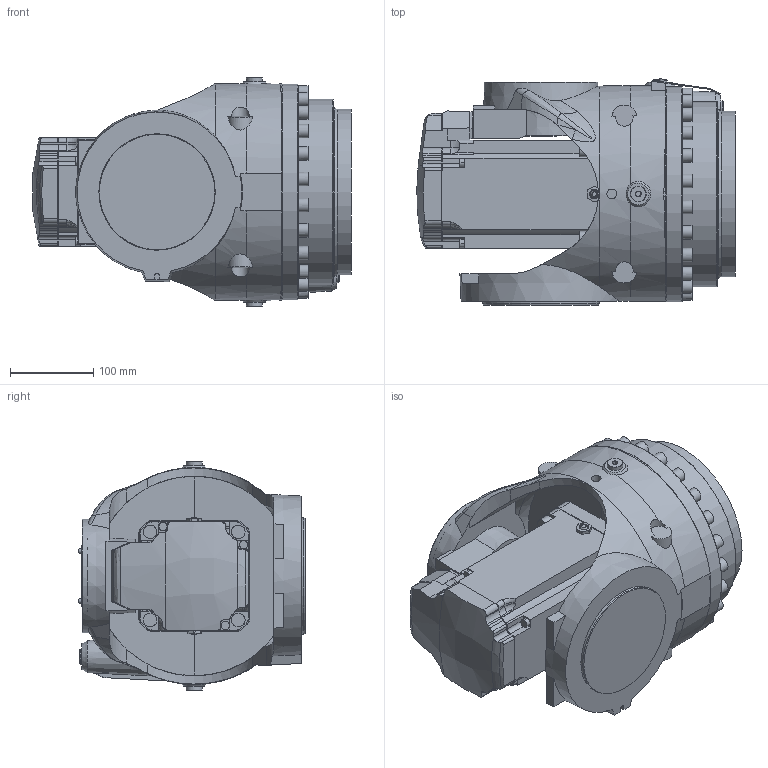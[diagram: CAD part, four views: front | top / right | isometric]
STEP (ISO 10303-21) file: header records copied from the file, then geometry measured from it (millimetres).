
FILE_DESCRIPTION (( 'STEP AP214' ), '1' );
FILE_NAME ('IRB7720_All-290_OC_00_LINK05_CAD.step', '2026-01-28T12:33:03', ( '' ), ( '' ), 'SwSTEP 2.0', 'SolidWorks 2024', '' );
FILE_SCHEMA (( 'AUTOMOTIVE_DESIGN' ));
Length unit declared in the file: millimetre
Products named in the file (1): IRB7720_All-290_OC_00_LINK05_CAD
Bounding box: 382.96 x 272.23 x 275 mm (x, y, z)
Volume: 12242820.7 mm3; surface area: 586617.2 mm2
Topology: 1 solids, 1 shells, 656 faces, 1711 edges, 1118 vertices
Faces by surface type: plane 335, cylinder 202, cone 65, bspline 40, torus 14
Full cylindrical faces by diameter (mm): 4.8 x2, 5.5 x4, 8.5 x2, 10 x3, 11 x1, 11.8 x2, 16.27 x28, 17.9 x2, 18 x2, 19 x2, 134 x1, 140 x1, 199 x1, 202.811 x1, 223 x1, 259 x1
Entity records: 32035 total; most frequent: CARTESIAN_POINT 9990, ORIENTED_EDGE 3138, DIRECTION 2818, EDGE_CURVE 1569, VERTEX_POINT 1065, AXIS2_PLACEMENT_3D 1046, EDGE_LOOP 818, VECTOR 726
